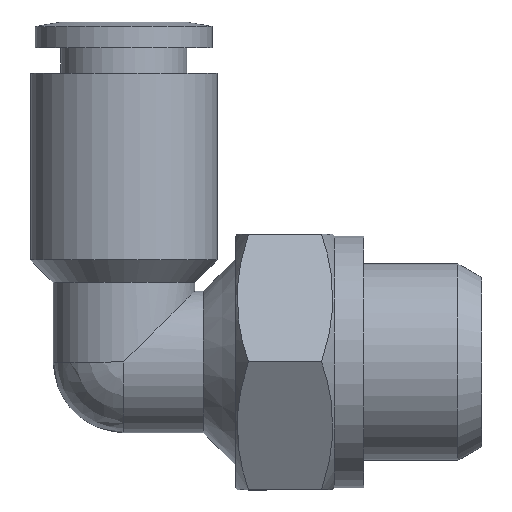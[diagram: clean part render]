
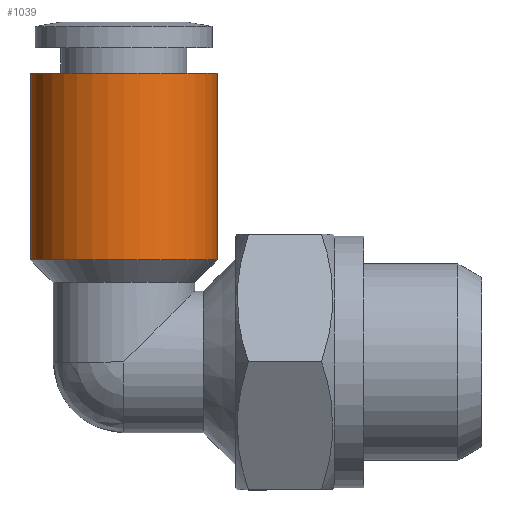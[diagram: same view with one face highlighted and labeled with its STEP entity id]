
A CAD part, top view. The second image highlights one B-rep face of the part: STEP entity #1039.
In plain terms, the highlighted cylindrical face has radius 4.75 mm (diameter 9.5 mm), a full revolution.
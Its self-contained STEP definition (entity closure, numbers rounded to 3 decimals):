
#1005=CARTESIAN_POINT('',(-4.75,5.2,0.0));
#1006=VERTEX_POINT('',#1005);
#1007=CARTESIAN_POINT('',(0.0,5.2,0.0));
#1008=DIRECTION('',(0.0,1.0,0.0));
#1009=DIRECTION('',(-1.0,0.0,0.0));
#1010=AXIS2_PLACEMENT_3D('',#1007,#1008,#1009);
#1011=CIRCLE('',#1010,4.75);
#1012=EDGE_CURVE('',#1006,#1006,#1011,.T.);
#1020=CARTESIAN_POINT('',(0.0,9.95,0.0));
#1021=DIRECTION('',(0.0,1.0,0.0));
#1022=DIRECTION('',(-1.0,0.0,0.0));
#1023=AXIS2_PLACEMENT_3D('',#1020,#1021,#1022);
#1024=CYLINDRICAL_SURFACE('',#1023,4.75);
#1025=CARTESIAN_POINT('',(-4.75,14.7,0.0));
#1026=VERTEX_POINT('',#1025);
#1027=CARTESIAN_POINT('',(0.0,14.7,0.0));
#1028=DIRECTION('',(0.0,1.0,0.0));
#1029=DIRECTION('',(-1.0,0.0,0.0));
#1030=AXIS2_PLACEMENT_3D('',#1027,#1028,#1029);
#1031=CIRCLE('',#1030,4.75);
#1032=EDGE_CURVE('',#1026,#1026,#1031,.T.);
#1033=ORIENTED_EDGE('',*,*,#1032,.F.);
#1034=EDGE_LOOP('',(#1033));
#1035=FACE_OUTER_BOUND('',#1034,.T.);
#1036=ORIENTED_EDGE('',*,*,#1012,.T.);
#1037=EDGE_LOOP('',(#1036));
#1038=FACE_BOUND('',#1037,.T.);
#1039=ADVANCED_FACE('',(#1035,#1038),#1024,.T.);
